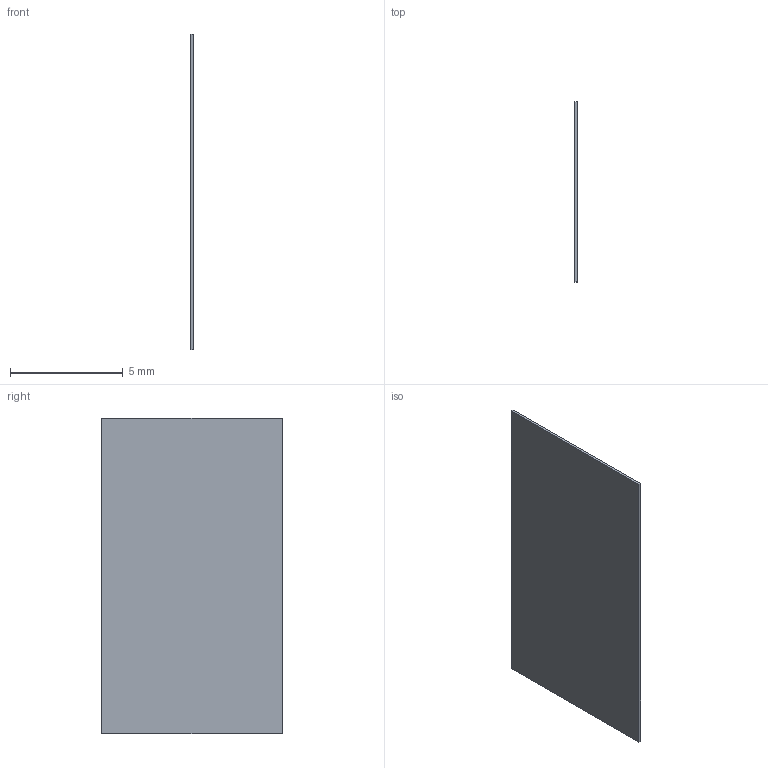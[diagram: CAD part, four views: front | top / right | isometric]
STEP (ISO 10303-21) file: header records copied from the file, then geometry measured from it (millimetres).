
FILE_DESCRIPTION(('Open CASCADE Model'),'2;1');
FILE_NAME('front_grip_PSA_patch_0.10_5','2026-09-04T19:55:25',('Author') ,('Open CASCADE'),'Open CASCADE STEP processor 7.8','build123d', 'Unknown');
FILE_SCHEMA(('AUTOMOTIVE_DESIGN { 1 0 10303 214 1 1 1 1 }'));
Length unit declared in the file: millimetre
Products named in the file (2): =>[0:1:1:2]; front_grip_PSA_patch_0.10_5
Assembly tree (1 placements, depth 2):
  =>[0:1:1:2]
    front_grip_PSA_patch_0.10_5
Bounding box: 0.1 x 8 x 14 mm (x, y, z)
Volume: 11.2 mm3; surface area: 228.4 mm2
Topology: 1 solids, 1 shells, 6 faces, 12 edges, 8 vertices
Faces by surface type: plane 6
Entity records: 349 total; most frequent: CARTESIAN_POINT 52, DIRECTION 52, LINE 36, VECTOR 36, ORIENTED_EDGE 24, PCURVE 24, DEFINITIONAL_REPRESENTATION 24, EDGE_CURVE 12
